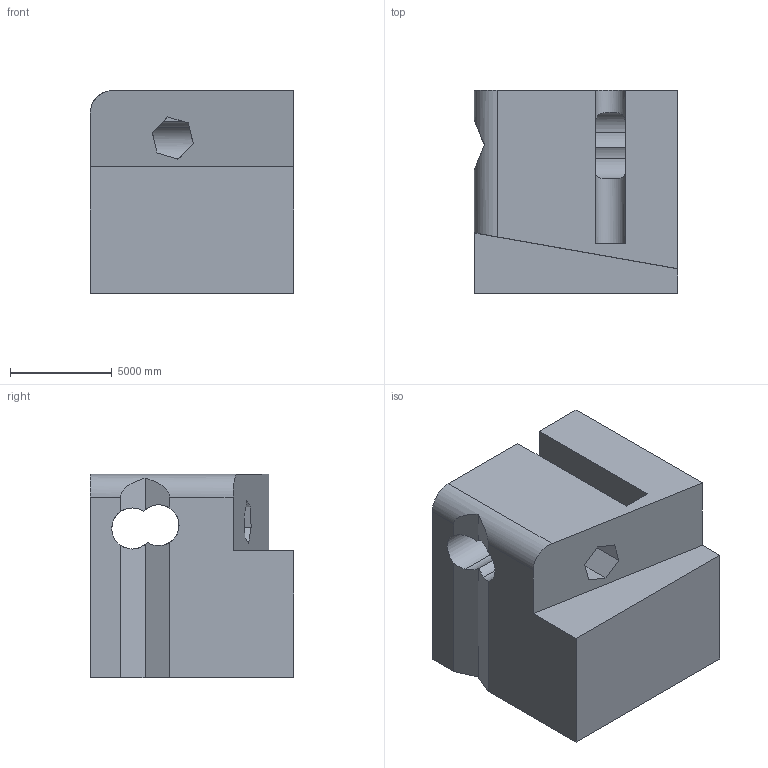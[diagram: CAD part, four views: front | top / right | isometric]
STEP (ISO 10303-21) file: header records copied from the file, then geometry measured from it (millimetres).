
FILE_DESCRIPTION (( 'STEP AP203' ), '1' );
FILE_NAME ('791.STEP', '2022-07-29T13:14:21', ( 'user' ), ( '' ), 'SwSTEP 2.0', 'SolidWorks 2021', '' );
FILE_SCHEMA (( 'CONFIG_CONTROL_DESIGN' ));
Length unit declared in the file: centimetre
Products named in the file (1): 791
Bounding box: 10000 x 10000 x 10000 mm (x, y, z)
Volume: 820634621655.6 mm3; surface area: 702302885.6 mm2
Topology: 1 solids, 1 shells, 40 faces, 123 edges, 82 vertices
Faces by surface type: plane 27, cylinder 13
Entity records: 1764 total; most frequent: CARTESIAN_POINT 624, ORIENTED_EDGE 246, DIRECTION 199, EDGE_CURVE 123, VERTEX_POINT 82, VECTOR 79, LINE 79, AXIS2_PLACEMENT_3D 60
